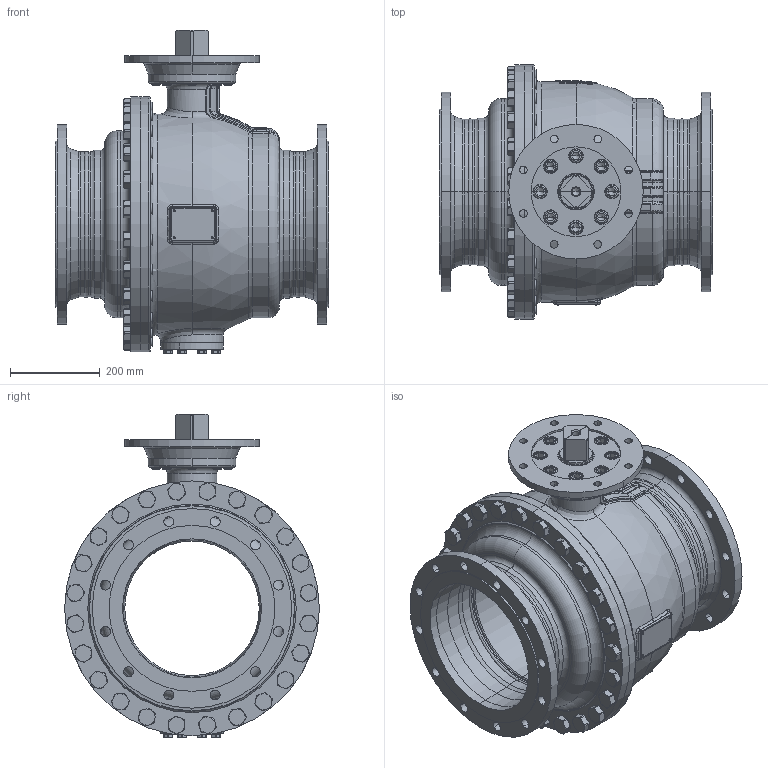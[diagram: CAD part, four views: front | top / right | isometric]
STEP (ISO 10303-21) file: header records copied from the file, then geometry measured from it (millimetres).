
FILE_DESCRIPTION((''),'2;1');
FILE_NAME('KHI-F_300-PN010-F25-4_SW0001','2026-02-05T15:06:49',('fischerkl'),('KLINGER'),'CREO PARAMETRIC BY PTC INC, 2023014','CREO PARAMETRIC BY PTC INC, 2023014','');
FILE_SCHEMA(('CONFIG_CONTROL_DESIGN'));
Products named in the file (1): KHI-F_300-PN010-F25-4_SW0001
Bounding box: 610 x 568 x 721.8 mm (x, y, z)
Volume: 28951913.1 mm3; surface area: 4436197 mm2
Topology: 1 solids, 4 shells, 3382 faces, 8560 edges, 5349 vertices
Faces by surface type: plane 1738, cylinder 759, cone 448, torus 297, bspline 111, sphere 29
Entity records: 143890 total; most frequent: CARTESIAN_POINT 63608, ORIENTED_EDGE 17068, DIRECTION 16448, EDGE_CURVE 8534, AXIS2_PLACEMENT_3D 6270, VERTEX_POINT 5349, VECTOR 3908, LINE 3908
